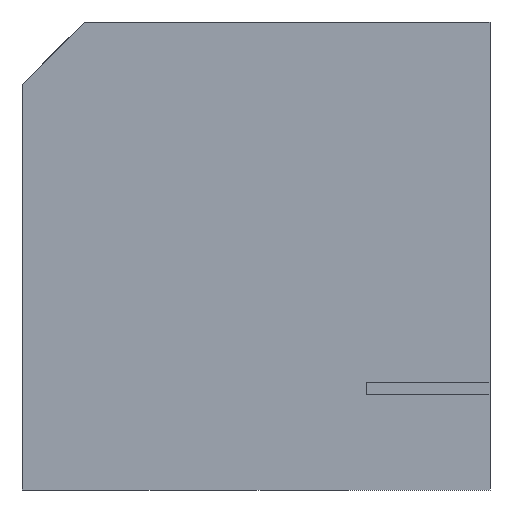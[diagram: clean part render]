
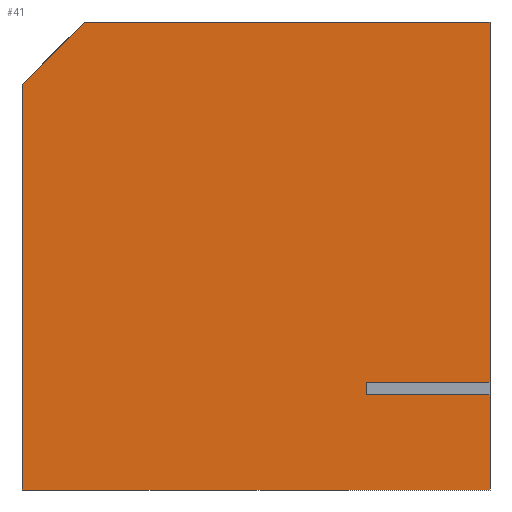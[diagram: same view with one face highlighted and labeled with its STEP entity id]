
A CAD part, left-side view. The second image highlights one B-rep face of the part: STEP entity #41.
In plain terms, the highlighted planar face has unit normal (-1, 0, 0).
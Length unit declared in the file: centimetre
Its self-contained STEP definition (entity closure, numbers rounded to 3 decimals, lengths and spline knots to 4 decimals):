
#30 = VERTEX_POINT ( 'NONE', #95 ) ;
#33 = CARTESIAN_POINT ( 'NONE',  ( 0., 866.6624, 1000. ) ) ;
#38 = ORIENTED_EDGE ( 'NONE', *, *, #265, .F. ) ;
#41 = ADVANCED_FACE ( 'NONE', ( #737 ), #198, .F. ) ;
#50 = CARTESIAN_POINT ( 'NONE',  ( 0., 264.241, 230.4804 ) ) ;
#59 = ORIENTED_EDGE ( 'NONE', *, *, #727, .F. ) ;
#71 = VERTEX_POINT ( 'NONE', #246 ) ;
#75 = CARTESIAN_POINT ( 'NONE',  ( 0., 0., 1000. ) ) ;
#88 = CARTESIAN_POINT ( 'NONE',  ( 0., 1000., 1000. ) ) ;
#95 = CARTESIAN_POINT ( 'NONE',  ( 0., 264.241, 204.0546 ) ) ;
#100 = DIRECTION ( 'NONE',  ( 0., 0., -1. ) ) ;
#112 = VECTOR ( 'NONE', #172, 100. ) ;
#148 = CARTESIAN_POINT ( 'NONE',  ( 0., 866.6624, 1000. ) ) ;
#150 = EDGE_CURVE ( 'NONE', #208, #312, #644, .T. ) ;
#160 = EDGE_CURVE ( 'NONE', #71, #619, #710, .T. ) ;
#172 = DIRECTION ( 'NONE',  ( 0., -1., 0. ) ) ;
#178 = LINE ( 'NONE', #655, #712 ) ;
#194 = ORIENTED_EDGE ( 'NONE', *, *, #269, .T. ) ;
#198 = PLANE ( 'NONE',  #423 ) ;
#206 = VECTOR ( 'NONE', #718, 100. ) ;
#208 = VERTEX_POINT ( 'NONE', #358 ) ;
#225 = CARTESIAN_POINT ( 'NONE',  ( 0., 0., 204.0546 ) ) ;
#236 = LINE ( 'NONE', #716, #351 ) ;
#246 = CARTESIAN_POINT ( 'NONE',  ( 0., 1000., 866.6624 ) ) ;
#257 = VECTOR ( 'NONE', #638, 100. ) ;
#265 = EDGE_CURVE ( 'NONE', #299, #312, #611, .T. ) ;
#269 = EDGE_CURVE ( 'NONE', #273, #71, #270, .T. ) ;
#270 = LINE ( 'NONE', #148, #257 ) ;
#273 = VERTEX_POINT ( 'NONE', #33 ) ;
#275 = EDGE_CURVE ( 'NONE', #273, #299, #458, .T. ) ;
#291 = LINE ( 'NONE', #761, #112 ) ;
#298 = CARTESIAN_POINT ( 'NONE',  ( 0., 264.241, 204.0546 ) ) ;
#299 = VERTEX_POINT ( 'NONE', #735 ) ;
#312 = VERTEX_POINT ( 'NONE', #757 ) ;
#342 = CARTESIAN_POINT ( 'NONE',  ( 0., 1000., 0. ) ) ;
#351 = VECTOR ( 'NONE', #417, 100. ) ;
#358 = CARTESIAN_POINT ( 'NONE',  ( 0., 264.241, 230.4804 ) ) ;
#366 = ORIENTED_EDGE ( 'NONE', *, *, #656, .F. ) ;
#374 = VECTOR ( 'NONE', #452, 100. ) ;
#387 = DIRECTION ( 'NONE',  ( 0., 0., -1. ) ) ;
#417 = DIRECTION ( 'NONE',  ( 0., -1., 0. ) ) ;
#423 = AXIS2_PLACEMENT_3D ( 'NONE', #88, #686, #387 ) ;
#447 = ORIENTED_EDGE ( 'NONE', *, *, #275, .F. ) ;
#452 = DIRECTION ( 'NONE',  ( 0., 0., -1. ) ) ;
#458 = LINE ( 'NONE', #511, #673 ) ;
#472 = DIRECTION ( 'NONE',  ( 0., -1., 0. ) ) ;
#480 = LINE ( 'NONE', #298, #206 ) ;
#505 = ORIENTED_EDGE ( 'NONE', *, *, #715, .T. ) ;
#511 = CARTESIAN_POINT ( 'NONE',  ( 0., 1000., 1000. ) ) ;
#518 = ORIENTED_EDGE ( 'NONE', *, *, #150, .T. ) ;
#523 = ORIENTED_EDGE ( 'NONE', *, *, #160, .T. ) ;
#552 = ORIENTED_EDGE ( 'NONE', *, *, #732, .F. ) ;
#568 = EDGE_LOOP ( 'NONE', ( #366, #518, #38, #447, #194, #523, #505, #552, #59 ) ) ;
#570 = VECTOR ( 'NONE', #100, 100. ) ;
#579 = CARTESIAN_POINT ( 'NONE',  ( 0., 1000., 1000. ) ) ;
#611 = LINE ( 'NONE', #75, #374 ) ;
#619 = VERTEX_POINT ( 'NONE', #342 ) ;
#630 = VERTEX_POINT ( 'NONE', #225 ) ;
#638 = DIRECTION ( 'NONE',  ( 0., 0.707, -0.707 ) ) ;
#644 = LINE ( 'NONE', #50, #724 ) ;
#655 = CARTESIAN_POINT ( 'NONE',  ( 0., 0., 1000. ) ) ;
#656 = EDGE_CURVE ( 'NONE', #208, #30, #480, .T. ) ;
#657 = DIRECTION ( 'NONE',  ( 0., 0., -1. ) ) ;
#660 = CARTESIAN_POINT ( 'NONE',  ( 0., 0., 0. ) ) ;
#666 = VERTEX_POINT ( 'NONE', #660 ) ;
#673 = VECTOR ( 'NONE', #746, 100. ) ;
#686 = DIRECTION ( 'NONE',  ( 1., 0., 0. ) ) ;
#710 = LINE ( 'NONE', #579, #570 ) ;
#712 = VECTOR ( 'NONE', #657, 100. ) ;
#715 = EDGE_CURVE ( 'NONE', #619, #666, #236, .T. ) ;
#716 = CARTESIAN_POINT ( 'NONE',  ( 0., 1000., 0. ) ) ;
#718 = DIRECTION ( 'NONE',  ( 0., 0., -1. ) ) ;
#724 = VECTOR ( 'NONE', #472, 100. ) ;
#727 = EDGE_CURVE ( 'NONE', #30, #630, #291, .T. ) ;
#732 = EDGE_CURVE ( 'NONE', #630, #666, #178, .T. ) ;
#735 = CARTESIAN_POINT ( 'NONE',  ( 0., 0., 1000. ) ) ;
#737 = FACE_OUTER_BOUND ( 'NONE', #568, .T. ) ;
#746 = DIRECTION ( 'NONE',  ( 0., -1., 0. ) ) ;
#757 = CARTESIAN_POINT ( 'NONE',  ( 0., 0., 230.4804 ) ) ;
#761 = CARTESIAN_POINT ( 'NONE',  ( 0., 264.241, 204.0546 ) ) ;
